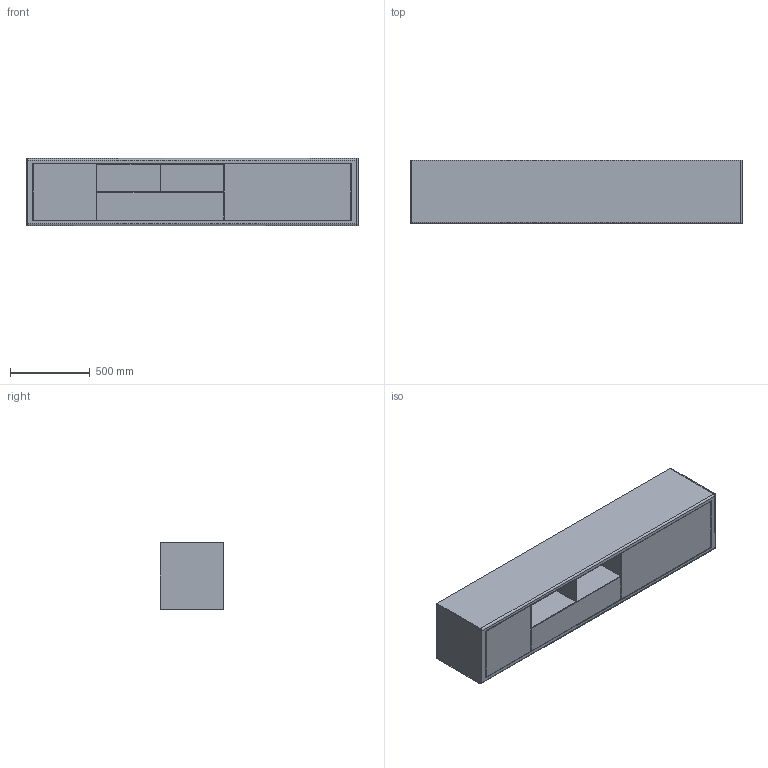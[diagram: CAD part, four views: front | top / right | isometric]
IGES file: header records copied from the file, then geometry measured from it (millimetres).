
Start section: Comment
Global section: file name: S36-H2-208-01.igs; native system:  By UGS Corp.; preprocessor: XPlus GENERIC/IGES 3.0; author: Author; organization: Title; date: 20141218.102426; units: inch
Bounding box: 2080 x 400 x 420 mm (x, y, z)
Surface area: 9231003.7 mm2 (no closed solid volume)
Topology: 0 solids, 0 shells, 55 faces, 276 edges, 276 vertices
Faces by surface type: bspline 55
